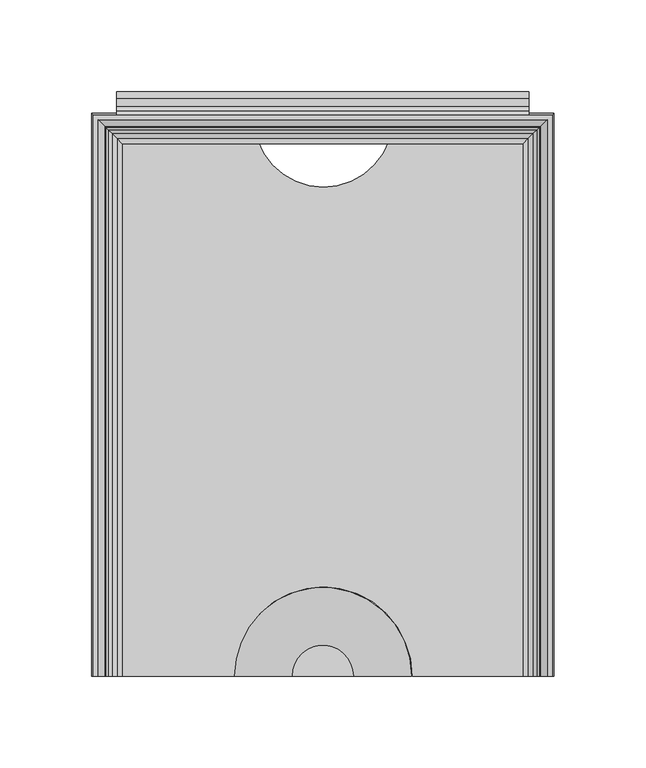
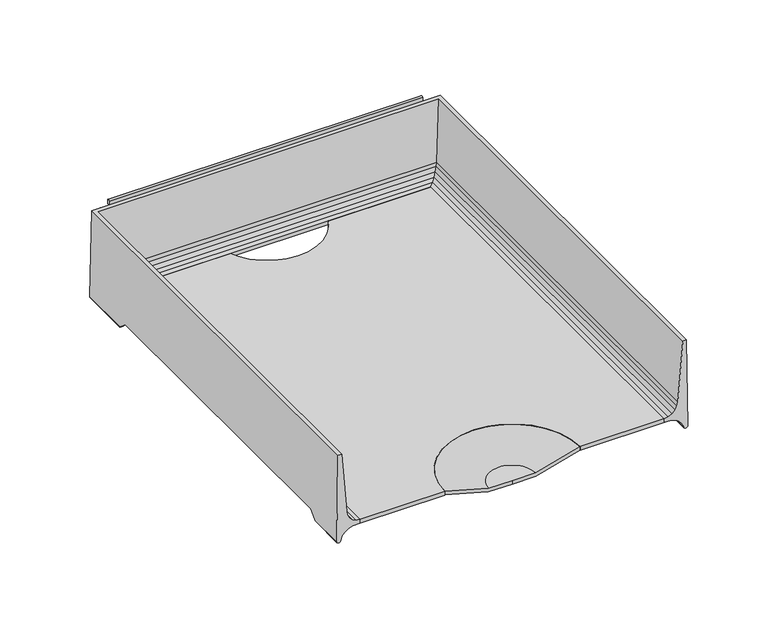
"""IFC4 building model written with IfcOpenShell, lengths in millimetres: furniture geometry."""

from ifc_helpers import new_model, si_unit, point, frame, frame_2d, origin, place, context, project, spatial, polyline, circle_curve, ellipse_curve, trimmed, segment, composite_curve, outline, extrude, source, transform, mapped, element, save
from ifc_brep_helpers import plane_surface, cylinder_surface, revolved_surface, advanced_brep


def furniture_481bf6a0(model_context):
    return source(origin(), model_context, "Body", "SolidModel", [
        advanced_brep(
        [(126.0820502, -154.0206082, 887.1007489), (125.1325529, -154.0206082, 952.5001914), (122.4547921, -154.0206082, 952.5001914), (118.8379747, -154.0206082, 907.7131003), (118.4123648, -154.0206082, 904.9796052), (117.0774354, -154.0206082, 902.2785664), (114.9656457, -154.0206082, 900.1296015), (112.28832, -154.0206082, 898.7477261), (109.3133381, -154.0206082, 898.2712052), (109.3133381, -154.0206082, 895.4490971), (114.5666739, -154.0206082, 895.2560987), (117.605351, -154.0206082, 894.1997218), (120.2416, -154.0206082, 892.3558822), (122.2762142, -154.0206082, 889.8639079), (123.1625518, -154.0206082, 886.8206655), (126.0820502, -127.6379698, 887.1007489), (126.0026181, -121.5231874, 892.571872), (126.0026181, 109.0611937, 892.571872), (126.0820502, 115.1759816, 887.1007489), (126.0820502, 153.036442, 887.1007489), (125.1325529, 152.0869447, 952.5001914), (-125.1325529, 152.0869447, 952.5001914), (-125.1325529, -154.0206082, 952.5001914), (-122.4547921, -154.0206082, 952.5001914), (-122.4547921, 149.4091839, 952.5001914), (122.4547921, 149.4091839, 952.5001914), (118.8379747, 145.7923665, 907.7131003), (118.4123648, 145.3667566, 904.9796052), (117.0774354, 144.0318272, 902.2785664), (114.9656457, 141.9200375, 900.1296015), (112.28832, 139.2427118, 898.7477261), (109.3133381, 136.2677299, 898.2712052), (109.3133381, 136.2677299, 895.4490971), (114.5666739, 141.5210656, 895.2560987), (117.605351, 144.5597428, 894.1997218), (120.2416, 147.1959918, 892.3558822), (120.2416, 109.3025941, 892.3558822), (119.9327864, 109.0611937, 892.571872), (119.9327864, -121.5231874, 892.571872), (120.2416, -121.7645876, 892.3558822), (122.2762142, -124.5497344, 889.8639079), (122.2762142, 149.230606, 889.8639079), (122.2762142, 112.0877435, 889.8639079), (123.1625518, -127.9510041, 886.8206655), (123.1625518, 150.1169436, 886.8206655), (123.1625518, 115.4890162, 886.8206655), (-126.0820502, 153.036442, 887.1007489), (-118.8379747, 145.7923665, 907.7131003), (-118.4123648, 145.3667566, 904.9796052), (-117.0774354, 144.0318272, 902.2785664), (-114.9656457, 141.9200375, 900.1296015), (-112.28832, 139.2427118, 898.7477261), (-109.3133381, 136.2677299, 898.2712052), (-109.3133381, 136.2677299, 895.4490971), (-114.5666739, 141.5210656, 895.2560987), (-117.605351, 144.5597428, 894.1997218), (-120.2416, 147.1959918, 892.3558822), (-122.2762142, 149.230606, 889.8639079), (-123.1625518, 150.1169436, 886.8206655), (-126.0820502, -154.0206082, 887.1007489), (-123.1625518, -154.0206082, 886.8206655), (-122.2762142, -154.0206082, 889.8639079), (-120.2416, -154.0206082, 892.3558822), (-117.605351, -154.0206082, 894.1997218), (-114.5666739, -154.0206082, 895.2560987), (-109.3133381, -154.0206082, 895.4490971), (-109.3133381, -154.0206082, 898.2712052), (-112.28832, -154.0206082, 898.7477261), (-114.9656457, -154.0206082, 900.1296015), (-117.0774354, -154.0206082, 902.2785664), (-118.4123648, -154.0206082, 904.9796052), (-118.8379747, -154.0206082, 907.7131003), (-126.0820502, 115.1759816, 887.1007489), (-126.0026181, 109.0611937, 892.571872), (-126.0026181, -121.5231874, 892.571872), (-126.0820502, -127.6379698, 887.1007489), (-120.2416, -121.7645876, 892.3558822), (-119.9327864, -121.5231874, 892.571872), (-119.9327864, 109.0611937, 892.571872), (-120.2416, 109.3025941, 892.3558822), (-122.2762142, 112.0877435, 889.8639079), (-122.2762142, -124.5497344, 889.8639079), (-123.1625518, 115.4890162, 886.8206655), (-123.1625518, -127.9510041, 886.8206655)],
        [
            (0, 1),
            (1, 2),
            (2, 3),
            (3, 4),
            (4, 5),
            (5, 6),
            (6, 7),
            (7, 8),
            (8, 9),
            (9, 10),
            (10, 11),
            (11, 12),
            (12, 13),
            (13, 14),
            (14, 0, circle_curve(frame((124.5859452, -154.0206082, 887.3396685), z_axis=(0.0, -1.0, 0.0), x_axis=(-1.0, 0.0, 0.0)), 1.515062)),
            (0, 15),
            (15, 16),
            (16, 17),
            (17, 18),
            (18, 19),
            (19, 20),
            (20, 1),
            (20, 21),
            (21, 22),
            (22, 23),
            (23, 24),
            (24, 25),
            (25, 2),
            (25, 26),
            (26, 3),
            (26, 27),
            (27, 4),
            (27, 28),
            (28, 5),
            (28, 29),
            (29, 6),
            (29, 30),
            (30, 7),
            (30, 31),
            (31, 8),
            (31, 32),
            (32, 9),
            (32, 33),
            (33, 10),
            (33, 34),
            (34, 11),
            (34, 35),
            (35, 36),
            (36, 37),
            (37, 38),
            (38, 39),
            (39, 12),
            (39, 40),
            (40, 13),
            (35, 41),
            (41, 42),
            (42, 36),
            (40, 43),
            (43, 14),
            (41, 44),
            (44, 45),
            (45, 42),
            (43, 15, ellipse_curve(frame((124.5859452, -127.3709422, 887.3396685), z_axis=(0.0, -0.6667949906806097, 0.7452411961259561), x_axis=(0.0, -0.7452411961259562, -0.6667949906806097)), 2.2721556, 1.515062)),
            (44, 19, ellipse_curve(frame((124.5859452, 151.540337, 887.3396685), z_axis=(0.7071067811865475, -0.7071067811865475, 0.0), x_axis=(-0.7071067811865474, -0.7071067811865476, 0.0)), 2.1426212, 1.515062)),
            (18, 45, ellipse_curve(frame((124.5859452, 114.9089538, 887.3396685), z_axis=(0.0, 0.6667946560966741, 0.7452414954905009), x_axis=(0.0, -0.7452414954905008, 0.6667946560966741)), 2.2721567, 1.515062)),
            (19, 46),
            (46, 21),
            (24, 47),
            (47, 26),
            (47, 48),
            (48, 27),
            (48, 49),
            (49, 28),
            (49, 50),
            (50, 29),
            (50, 51),
            (51, 30),
            (51, 52),
            (52, 31),
            (52, 53),
            (53, 32),
            (53, 54),
            (54, 33),
            (54, 55),
            (55, 34),
            (55, 56),
            (56, 35),
            (56, 57),
            (57, 41),
            (57, 58),
            (58, 44),
            (58, 46, ellipse_curve(frame((-124.5859452, 151.540337, 887.3396685), z_axis=(0.7071067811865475, 0.7071067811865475, 0.0), x_axis=(0.7071067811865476, -0.7071067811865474, 0.0)), 2.1426212, 1.515062)),
            (22, 59),
            (59, 60, circle_curve(frame((-124.5859452, -154.0206082, 887.3396685), z_axis=(0.0, -1.0, 0.0), x_axis=(1.0, 0.0, 0.0)), 1.515062)),
            (60, 61),
            (61, 62),
            (62, 63),
            (63, 64),
            (64, 65),
            (65, 66),
            (66, 67),
            (67, 68),
            (68, 69),
            (69, 70),
            (70, 71),
            (71, 23),
            (46, 72),
            (72, 73),
            (73, 74),
            (74, 75),
            (75, 59),
            (71, 47),
            (70, 48),
            (69, 49),
            (68, 50),
            (67, 51),
            (66, 52),
            (65, 53),
            (64, 54),
            (63, 55),
            (62, 76),
            (76, 77),
            (77, 78),
            (78, 79),
            (79, 56),
            (79, 80),
            (80, 57),
            (61, 81),
            (81, 76),
            (80, 82),
            (82, 58),
            (60, 83),
            (83, 81),
            (82, 72, ellipse_curve(frame((-124.5859452, 114.9089538, 887.3396685), z_axis=(0.0, 0.6667946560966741, 0.7452414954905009), x_axis=(0.0, 0.7452414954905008, -0.6667946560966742)), 2.2721567, 1.515062)),
            (75, 83, ellipse_curve(frame((-124.5859452, -127.3709422, 887.3396685), z_axis=(0.0, -0.6667949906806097, 0.7452411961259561), x_axis=(0.0, 0.745241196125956, 0.6667949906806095)), 2.2721556, 1.515062)),
            (38, 16),
            (74, 77),
            (37, 17),
            (73, 78),
        ],
        [
            plane_surface(frame((127.0, -154.0206082, 885.825), z_axis=(0.0, -1.0, 0.0), x_axis=(0.0, 0.0, 1.0))),
            plane_surface(frame((126.0820502, -154.0206082, 887.1007489), z_axis=(0.9998946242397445, 0.0, 0.01451690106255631), x_axis=(0.0, 1.0, 0.0))),
            plane_surface(frame((125.1325529, -154.0206082, 952.5001914), z_axis=(0.0, 0.0, 1.0), x_axis=(0.0, 1.0, 0.0))),
            plane_surface(frame((122.4547921, -154.0206082, 952.5001914), z_axis=(-0.9967551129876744, 0.0, 0.08049375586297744), x_axis=(0.0, 1.0, 0.0))),
            plane_surface(frame((118.8379747, -154.0206082, 907.7131003), z_axis=(-0.9880945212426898, 0.0, 0.15384803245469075), x_axis=(0.0, 1.0, 0.0))),
            plane_surface(frame((118.4123648, -154.0206082, 904.9796052), z_axis=(-0.8964873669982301, 0.0, 0.44306929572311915), x_axis=(0.0, 1.0, 0.0))),
            plane_surface(frame((117.0774354, -154.0206082, 902.2785664), z_axis=(-0.7132491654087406, 0.0, 0.7009105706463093), x_axis=(0.0, 1.0, 0.0))),
            plane_surface(frame((114.9656457, -154.0206082, 900.1296015), z_axis=(-0.45865074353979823, 0.0, 0.8886166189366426), x_axis=(0.0, 1.0, 0.0))),
            plane_surface(frame((112.28832, -154.0206082, 898.7477261), z_axis=(-0.15816001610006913, 0.0, 0.987413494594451), x_axis=(0.0, 1.0, 0.0))),
            plane_surface(frame((109.3133381, -154.0206082, 898.2712052), z_axis=(-1.0, 0.0, 0.0), x_axis=(0.0, 1.0, 0.0))),
            plane_surface(frame((109.3133381, -154.0206082, 895.4490971), z_axis=(-0.036713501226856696, 0.0, -0.9993258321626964), x_axis=(0.0, 1.0, 0.0))),
            plane_surface(frame((114.5666739, -154.0206082, 895.2560987), z_axis=(-0.3283669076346, 0.0, -0.9445502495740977), x_axis=(0.0, 1.0, 0.0))),
            plane_surface(frame((117.605351, -154.0206082, 894.1997218), z_axis=(-0.5731421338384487, 0.0, -0.819455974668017), x_axis=(0.0, 1.0, 0.0))),
            plane_surface(frame((120.2416, -154.0206082, 892.3558822), z_axis=(-0.77460799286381, 0.0, -0.6324416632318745), x_axis=(0.0, 1.0, 0.0))),
            plane_surface(frame((122.2762142, -154.0206082, 889.8639079), z_axis=(-0.9601080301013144, 0.0, -0.2796293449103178), x_axis=(0.0, 1.0, 0.0))),
            cylinder_surface(frame((124.5859452, -154.0206082, 887.3396685), z_axis=(0.0, -1.0, 0.0), x_axis=(-1.0, 0.0, 0.0)), 1.515062),
            plane_surface(frame((126.0820502, 153.036442, 887.1007489), z_axis=(0.0, 0.9998946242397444, 0.01451690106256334), x_axis=(-1.0, 0.0, 0.0))),
            plane_surface(frame((122.4547921, 149.4091839, 952.5001914), z_axis=(0.0, -0.9967551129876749, 0.08049375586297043), x_axis=(-1.0, 0.0, 0.0))),
            plane_surface(frame((118.8379747, 145.7923665, 907.7131003), z_axis=(0.0, -0.9880945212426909, 0.15384803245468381), x_axis=(-1.0, 0.0, 0.0))),
            plane_surface(frame((118.4123648, 145.3667566, 904.9796052), z_axis=(0.0, -0.8964873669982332, 0.4430692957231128), x_axis=(-1.0, 0.0, 0.0))),
            plane_surface(frame((117.0774354, 144.0318272, 902.2785664), z_axis=(0.0, -0.7132491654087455, 0.7009105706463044), x_axis=(-1.0, 0.0, 0.0))),
            plane_surface(frame((114.9656457, 141.9200375, 900.1296015), z_axis=(0.0, -0.4586507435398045, 0.8886166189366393), x_axis=(-1.0, 0.0, 0.0))),
            plane_surface(frame((112.28832, 139.2427118, 898.7477261), z_axis=(0.0, -0.15816001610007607, 0.9874134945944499), x_axis=(-1.0, 0.0, 0.0))),
            plane_surface(frame((109.3133381, 136.2677299, 898.2712052), z_axis=(0.0, -1.0, 0.0), x_axis=(-1.0, 0.0, 0.0))),
            plane_surface(frame((109.3133381, 136.2677299, 895.4490971), z_axis=(0.0, -0.03671350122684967, -0.9993258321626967), x_axis=(-1.0, 0.0, 0.0))),
            plane_surface(frame((114.5666739, 141.5210656, 895.2560987), z_axis=(0.0, -0.32836690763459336, -0.9445502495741), x_axis=(-1.0, 0.0, 0.0))),
            plane_surface(frame((117.605351, 144.5597428, 894.1997218), z_axis=(0.0, -0.5731421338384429, -0.819455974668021), x_axis=(-1.0, 0.0, 0.0))),
            plane_surface(frame((120.2416, 147.1959918, 892.3558822), z_axis=(0.0, -0.7746079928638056, -0.6324416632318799), x_axis=(-1.0, 0.0, 0.0))),
            plane_surface(frame((122.2762142, 149.230606, 889.8639079), z_axis=(0.0, -0.9601080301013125, -0.27962934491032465), x_axis=(-1.0, 0.0, 0.0))),
            cylinder_surface(frame((127.0, 151.540337, 887.3396685), z_axis=(1.0, 0.0, 0.0), x_axis=(0.0, -1.0, 0.0)), 1.515062),
            plane_surface(frame((-127.0, -154.0206082, 885.825), z_axis=(0.0, -1.0, 0.0), x_axis=(0.0, 0.0, 1.0))),
            plane_surface(frame((-126.0820502, 153.036442, 887.1007489), z_axis=(-0.9998946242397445, 0.0, 0.01451690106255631), x_axis=(0.0, -1.0, 0.0))),
            plane_surface(frame((-122.4547921, 149.4091839, 952.5001914), z_axis=(0.9967551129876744, 0.0, 0.08049375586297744), x_axis=(0.0, -1.0, 0.0))),
            plane_surface(frame((-118.8379747, 145.7923665, 907.7131003), z_axis=(0.9880945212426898, 0.0, 0.15384803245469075), x_axis=(0.0, -1.0, 0.0))),
            plane_surface(frame((-118.4123648, 145.3667566, 904.9796052), z_axis=(0.8964873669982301, 0.0, 0.44306929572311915), x_axis=(0.0, -1.0, 0.0))),
            plane_surface(frame((-117.0774354, 144.0318272, 902.2785664), z_axis=(0.7132491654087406, 0.0, 0.7009105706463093), x_axis=(0.0, -1.0, 0.0))),
            plane_surface(frame((-114.9656457, 141.9200375, 900.1296015), z_axis=(0.45865074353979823, 0.0, 0.8886166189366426), x_axis=(0.0, -1.0, 0.0))),
            plane_surface(frame((-112.28832, 139.2427118, 898.7477261), z_axis=(0.15816001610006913, 0.0, 0.987413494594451), x_axis=(0.0, -1.0, 0.0))),
            plane_surface(frame((-109.3133381, 136.2677299, 898.2712052), z_axis=(1.0, 0.0, 0.0), x_axis=(0.0, -1.0, 0.0))),
            plane_surface(frame((-109.3133381, 136.2677299, 895.4490971), z_axis=(0.036713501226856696, 0.0, -0.9993258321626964), x_axis=(0.0, -1.0, 0.0))),
            plane_surface(frame((-114.5666739, 141.5210656, 895.2560987), z_axis=(0.3283669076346, 0.0, -0.9445502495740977), x_axis=(0.0, -1.0, 0.0))),
            plane_surface(frame((-117.605351, 144.5597428, 894.1997218), z_axis=(0.5731421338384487, 0.0, -0.819455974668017), x_axis=(0.0, -1.0, 0.0))),
            plane_surface(frame((-120.2416, 147.1959918, 892.3558822), z_axis=(0.77460799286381, 0.0, -0.6324416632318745), x_axis=(0.0, -1.0, 0.0))),
            plane_surface(frame((-122.2762142, 149.230606, 889.8639079), z_axis=(0.9601080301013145, 0.0, -0.2796293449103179), x_axis=(0.0, -1.0, 0.0))),
            cylinder_surface(frame((-124.5859452, 153.9543918, 887.3396685), z_axis=(0.0, 1.0, 0.0), x_axis=(1.0, 0.0, 0.0)), 1.515062),
            plane_surface(frame((-127.0, -130.1695728, 884.8356296), z_axis=(0.0, 0.6667949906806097, -0.7452411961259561), x_axis=(1.0, 0.0, 0.0))),
            plane_surface(frame((-127.0, -121.5231874, 892.571872), z_axis=(0.0, 0.0, -1.0), x_axis=(1.0, 0.0, 0.0))),
            plane_surface(frame((-127.0, 109.0611937, 892.571872), z_axis=(0.0, -0.6667946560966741, -0.7452414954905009), x_axis=(1.0, 0.0, 0.0))),
        ],
        [
            (0, [[1, 2, 3, 4, 5, 6, 7, 8, 9, 10, 11, 12, 13, 14, 15]]),
            (1, [[-1, 16, 17, 18, 19, 20, 21, 22]]),
            (2, [[-2, -22, 23, 24, 25, 26, 27, 28]]),
            (3, [[-3, -28, 29, 30]]),
            (4, [[-4, -30, 31, 32]]),
            (5, [[-5, -32, 33, 34]]),
            (6, [[-6, -34, 35, 36]]),
            (7, [[-7, -36, 37, 38]]),
            (8, [[-8, -38, 39, 40]]),
            (9, [[-9, -40, 41, 42]]),
            (10, [[-10, -42, 43, 44]]),
            (11, [[-11, -44, 45, 46]]),
            (12, [[-12, -46, 47, 48, 49, 50, 51, 52]]),
            (13, [[-13, -52, 53, 54]]),
            (13, [[55, 56, 57, -48]]),
            (14, [[-14, -54, 58, 59]]),
            (14, [[60, 61, 62, -56]]),
            (15, [[-15, -59, 63, -16]]),
            (15, [[64, -20, 65, -61]]),
            (16, [[-21, 66, 67, -23]]),
            (17, [[-27, 68, 69, -29]]),
            (18, [[-31, -69, 70, 71]]),
            (19, [[-33, -71, 72, 73]]),
            (20, [[-35, -73, 74, 75]]),
            (21, [[-37, -75, 76, 77]]),
            (22, [[-39, -77, 78, 79]]),
            (23, [[-41, -79, 80, 81]]),
            (24, [[-43, -81, 82, 83]]),
            (25, [[-45, -83, 84, 85]]),
            (26, [[-47, -85, 86, 87]]),
            (27, [[-55, -87, 88, 89]]),
            (28, [[-60, -89, 90, 91]]),
            (29, [[-64, -91, 92, -66]]),
            (30, [[-25, 93, 94, 95, 96, 97, 98, 99, 100, 101, 102, 103, 104, 105, 106]]),
            (31, [[-24, -67, 107, 108, 109, 110, 111, -93]]),
            (32, [[-26, -106, 112, -68]]),
            (33, [[-70, -112, -105, 113]]),
            (34, [[-72, -113, -104, 114]]),
            (35, [[-74, -114, -103, 115]]),
            (36, [[-76, -115, -102, 116]]),
            (37, [[-78, -116, -101, 117]]),
            (38, [[-80, -117, -100, 118]]),
            (39, [[-82, -118, -99, 119]]),
            (40, [[-84, -119, -98, 120]]),
            (41, [[-86, -120, -97, 121, 122, 123, 124, 125]]),
            (42, [[-88, -125, 126, 127]]),
            (42, [[-96, 128, 129, -121]]),
            (43, [[-90, -127, 130, 131]]),
            (43, [[-95, 132, 133, -128]]),
            (44, [[-92, -131, 134, -107]]),
            (44, [[-94, -111, 135, -132]]),
            (45, [[136, -17, -63, -58, -53, -51]]),
            (45, [[137, -122, -129, -133, -135, -110]]),
            (46, [[-136, -50, 138, -18]]),
            (46, [[-137, -109, 139, -123]]),
            (47, [[-138, -49, -57, -62, -65, -19]]),
            (47, [[-139, -108, -134, -130, -126, -124]]),
        ],
    ),
        extrude(outline(composite_curve([segment(polyline([(-109.3647805, 138.2769393), (-35.6610422, 138.2769393)]), True, "CONTINUOUS"), segment(trimmed(circle_curve(frame_2d((0.3369133, 150.6584166)), 38.0677525), [point((-35.6610422, 138.2769393))], [point((36.3348688, 138.2769393))], True, "CARTESIAN"), True, "CONTINUOUS"), segment(polyline([(36.3348688, 138.2769393), (109.6504969, 138.2769393), (109.6504969, -153.9875), (48.9112184, -153.9875)]), True, "CONTINUOUS"), segment(trimmed(circle_curve(frame_2d((0.2842795, -153.9323196)), 48.6269702), [point((48.9112184, -153.9875))], [point((-48.3426595, -153.9875))], True, "CARTESIAN"), True, "CONTINUOUS"), segment(polyline([(-48.3426595, -153.9875), (-109.3647805, -153.9875), (-109.3647805, 138.2769393)]), True, "CONTINUOUS")], self_intersect=False)), frame((0.0, 0.0, 895.4314677), z_axis=(0.0, 0.0, 1.0), x_axis=(1.0, 0.0, 0.0)), (0.0, 0.0, 1.0), 2.8395461),
        extrude(outline(composite_curve([segment(trimmed(circle_curve(frame_2d((162.7186949, 936.6707343)), 1.9049988), [point((164.6236937, 936.6707343))], [point((160.8136962, 936.6707343))], False, "CARTESIAN"), True, "CONTINUOUS"), segment(polyline([(160.8136962, 936.6707343), (160.8136962, 940.0997311), (160.0516969, 940.8617303), (156.4380325, 940.8617303), (152.1427596, 938.5143331), (152.1427596, 947.0191285), (156.4380325, 944.6717312), (160.8136928, 944.6717312)]), True, "CONTINUOUS"), segment(trimmed(circle_curve(frame_2d((160.8136928, 940.8617303)), 3.8100009), [point((160.8136928, 944.6717312))], [point((164.6236937, 940.8617303))], False, "CARTESIAN"), True, "CONTINUOUS"), segment(polyline([(164.6236937, 940.8617303), (164.6236937, 936.6707343)]), True, "CONTINUOUS")], self_intersect=False)), frame((-112.5397809, 0.0, 0.0), z_axis=(1.0, 0.0, 0.0), x_axis=(0.0, 1.0, 0.0)), (0.0, 0.0, 1.0), 225.0795617),
        advanced_brep(
        [(-16.8929028, -153.9875, 889.396875), (-48.4614622, -153.9875, 898.3045432), (-48.4614622, -153.9875, 895.7130018), (-16.9249292, -153.9875, 886.8143704), (0.0, -153.9875, 886.8143704), (0.0, -153.9875, 889.396875), (16.8929028, -153.9875, 889.396875), (16.9249292, -153.9875, 886.8143704), (48.4614622, -153.9875, 895.7130018), (48.4614622, -153.9875, 898.3045432)],
        [
            (0, 1),
            (1, 2),
            (2, 3),
            (3, 4),
            (4, 5),
            (5, 0),
            (6, 5),
            (4, 7),
            (7, 8),
            (8, 9),
            (9, 6),
            (9, 1, circle_curve(frame((0.0, -153.9875, 898.3045432), z_axis=(0.0, 0.0, 1.0), x_axis=(-1.0, 0.0, 0.0)), 48.4614622)),
            (0, 6, circle_curve(frame((0.0, -153.9875, 889.396875), z_axis=(0.0, 0.0, -1.0), x_axis=(-1.0, 0.0, 0.0)), 16.8929028)),
            (8, 2, circle_curve(frame((0.0, -153.9875, 895.7130018), z_axis=(0.0, 0.0, 1.0), x_axis=(-1.0, 0.0, 0.0)), 48.4614622)),
            (7, 3, circle_curve(frame((0.0, -153.9875, 886.8143704), z_axis=(0.0, 0.0, 1.0), x_axis=(-1.0, 0.0, 0.0)), 16.9249292)),
        ],
        [
            plane_surface(frame((0.0, -153.9875, 885.825), z_axis=(0.0, -1.0, 0.0), x_axis=(-1.0, 0.0, 0.0))),
            plane_surface(frame((0.0, -153.9875, 885.825), z_axis=(0.0, -1.0, 0.0), x_axis=(1.0, 0.0, 0.0))),
            revolved_surface(polyline([(-48.4614622, -153.9875, 898.3045432), (-16.8929028, -153.9875, 889.396875)]), (0.0, -153.9875, 885.825), (0.0, 0.0, 1.0)),
            cylinder_surface(frame((0.0, -153.9875, 885.825), z_axis=(0.0, 0.0, 1.0), x_axis=(-1.0, 0.0, 0.0)), 48.4614622),
            revolved_surface(polyline([(-16.9249292, -153.9875, 886.8143704), (-48.4614622, -153.9875, 895.7130018)]), (0.0, -153.9875, 885.825), (0.0, 0.0, 1.0)),
            plane_surface(frame((0.0, -153.9875, 886.8143704), z_axis=(0.0, 0.0, -1.0), x_axis=(-1.0, 0.0, 0.0))),
            plane_surface(frame((0.0, -153.9875, 889.396875), z_axis=(0.0, 0.0, 1.0), x_axis=(-1.0, 0.0, 0.0))),
        ],
        [
            (0, [[1, 2, 3, 4, 5, 6]]),
            (1, [[7, -5, 8, 9, 10, 11]]),
            (2, [[12, -1, 13, -11]]),
            (3, [[14, -2, -12, -10]]),
            (4, [[15, -3, -14, -9]]),
            (5, [[-4, -15, -8]]),
            (6, [[-13, -6, -7]]),
        ],
    ),
        extrude(outline(composite_curve([segment(polyline([(153.9875, 952.5), (152.1427596, 952.5), (152.1427596, 955.3315333)]), True, "CONTINUOUS"), segment(trimmed(circle_curve(frame_2d((153.0651298, 955.0262665)), 0.9715733), [point((152.1427596, 955.3315333))], [point((153.9875, 955.3315333))], False, "CARTESIAN"), True, "CONTINUOUS"), segment(polyline([(153.9875, 955.3315333), (153.9875, 952.5)]), True, "CONTINUOUS")], self_intersect=False)), frame((-112.5397809, 0.0, 0.0), z_axis=(1.0, 0.0, 0.0), x_axis=(0.0, 1.0, 0.0)), (0.0, 0.0, 1.0), 225.0795617),
    ])


if __name__ == "__main__":
    model = new_model("IFC4")
    model_context = context("Model", 3, world=origin())
    ifc_project = project(units=[si_unit("LENGTHUNIT", "METRE", prefix="MILLI")], contexts=[model_context])
    site = spatial("IfcSite", under=ifc_project)
    building = spatial("IfcBuilding", under=site)
    placement = place(None, origin())
    furniture_shape = furniture_481bf6a0(model_context)
    element("IfcFurniture", 1, ObjectType="HermanMiller_ThrivePortfolio_Y7216_PaperTray : 3\"H x 12\"D x 10\"W", at=placement, inside=building, context=model_context, shape_type="MappedRepresentation", body=[
        mapped(furniture_shape, transform((0.0, 0.0, 0.0), x_axis=(1.0, 0.0, 0.0), y_axis=(0.0, 1.0, 0.0), z_axis=(0.0, 0.0, 1.0))),
    ])
    save(model, "model.ifc")
